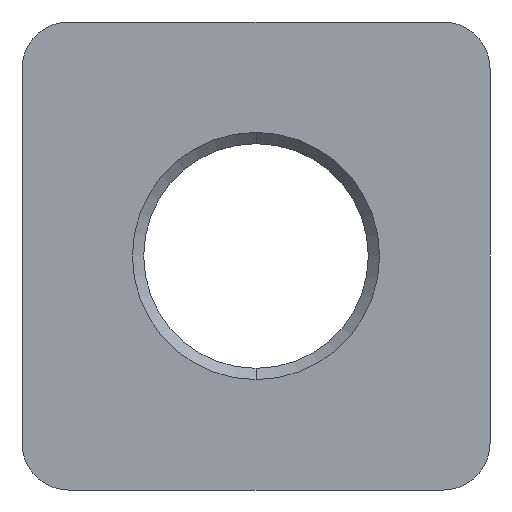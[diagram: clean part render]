
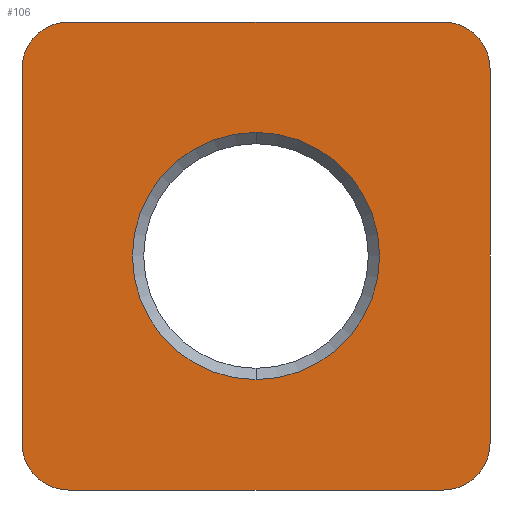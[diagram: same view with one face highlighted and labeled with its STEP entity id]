
A CAD part, front view. The second image highlights one B-rep face of the part: STEP entity #106.
In plain terms, the highlighted planar face has unit normal (0, -1, 0).
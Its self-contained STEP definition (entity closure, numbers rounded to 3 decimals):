
#3 = VERTEX_POINT ( 'NONE', #335 ) ;
#13 = EDGE_CURVE ( 'NONE', #123, #110, #318, .T. ) ;
#24 = EDGE_CURVE ( 'NONE', #3, #609, #358, .T. ) ;
#26 = EDGE_CURVE ( 'NONE', #82, #32, #351, .T. ) ;
#32 = VERTEX_POINT ( 'NONE', #396 ) ;
#40 = ORIENTED_EDGE ( 'NONE', *, *, #1140, .T. ) ;
#62 = EDGE_CURVE ( 'NONE', #110, #82, #412, .T. ) ;
#82 = VERTEX_POINT ( 'NONE', #495 ) ;
#85 = EDGE_LOOP ( 'NONE', ( #40, #309 ) ) ;
#93 = EDGE_CURVE ( 'NONE', #609, #96, #489, .T. ) ;
#96 = VERTEX_POINT ( 'NONE', #477 ) ;
#105 = EDGE_CURVE ( 'NONE', #32, #611, #524, .T. ) ;
#106 = ADVANCED_FACE ( 'NONE', ( #520, #519 ), #518, .F. ) ;
#110 = VERTEX_POINT ( 'NONE', #509 ) ;
#123 = VERTEX_POINT ( 'NONE', #558 ) ;
#126 = EDGE_CURVE ( 'NONE', #96, #123, #554, .T. ) ;
#207 = EDGE_CURVE ( 'NONE', #1141, #1139, #741, .T. ) ;
#213 = EDGE_LOOP ( 'NONE', ( #308, #265, #263, #264, #274, #280, #272, #278 ) ) ;
#263 = ORIENTED_EDGE ( 'NONE', *, *, #26, .F. ) ;
#264 = ORIENTED_EDGE ( 'NONE', *, *, #62, .F. ) ;
#265 = ORIENTED_EDGE ( 'NONE', *, *, #105, .F. ) ;
#272 = ORIENTED_EDGE ( 'NONE', *, *, #93, .F. ) ;
#274 = ORIENTED_EDGE ( 'NONE', *, *, #13, .F. ) ;
#278 = ORIENTED_EDGE ( 'NONE', *, *, #24, .F. ) ;
#280 = ORIENTED_EDGE ( 'NONE', *, *, #126, .F. ) ;
#308 = ORIENTED_EDGE ( 'NONE', *, *, #603, .F. ) ;
#309 = ORIENTED_EDGE ( 'NONE', *, *, #207, .T. ) ;
#314 = DIRECTION ( 'NONE',  ( 0., 0., 1. ) ) ;
#315 = DIRECTION ( 'NONE',  ( 0., 1., 0. ) ) ;
#316 = CARTESIAN_POINT ( 'NONE',  ( 20., 0., 20. ) ) ;
#317 = AXIS2_PLACEMENT_3D ( 'NONE', #316, #315, #314 ) ;
#318 = CIRCLE ( 'NONE', #317, 5. ) ;
#335 = CARTESIAN_POINT ( 'NONE',  ( -25., 0., -20. ) ) ;
#344 = DIRECTION ( 'NONE',  ( 0., 0., -1. ) ) ;
#345 = DIRECTION ( 'NONE',  ( 0., 1., 0. ) ) ;
#346 = CARTESIAN_POINT ( 'NONE',  ( 20., 0., -20. ) ) ;
#347 = AXIS2_PLACEMENT_3D ( 'NONE', #346, #345, #344 ) ;
#351 = CIRCLE ( 'NONE', #347, 5. ) ;
#355 = DIRECTION ( 'NONE',  ( 0., 0., 1. ) ) ;
#356 = VECTOR ( 'NONE', #355, 1000. ) ;
#357 = CARTESIAN_POINT ( 'NONE',  ( -25., 0., 20. ) ) ;
#358 = LINE ( 'NONE', #357, #356 ) ;
#396 = CARTESIAN_POINT ( 'NONE',  ( 20., 0., -25. ) ) ;
#406 = DIRECTION ( 'NONE',  ( 0., 0., -1. ) ) ;
#407 = VECTOR ( 'NONE', #406, 1000. ) ;
#408 = CARTESIAN_POINT ( 'NONE',  ( 25., 0., 20. ) ) ;
#412 = LINE ( 'NONE', #408, #407 ) ;
#477 = CARTESIAN_POINT ( 'NONE',  ( -20., 0., 25. ) ) ;
#485 = DIRECTION ( 'NONE',  ( 0., 0., -1. ) ) ;
#486 = DIRECTION ( 'NONE',  ( 0., 1., 0. ) ) ;
#487 = CARTESIAN_POINT ( 'NONE',  ( -20., 0., 20. ) ) ;
#488 = AXIS2_PLACEMENT_3D ( 'NONE', #487, #486, #485 ) ;
#489 = CIRCLE ( 'NONE', #488, 5. ) ;
#495 = CARTESIAN_POINT ( 'NONE',  ( 25., 0., -20. ) ) ;
#509 = CARTESIAN_POINT ( 'NONE',  ( 25., 0., 20. ) ) ;
#513 = DIRECTION ( 'NONE',  ( 0., 0., 1. ) ) ;
#514 = DIRECTION ( 'NONE',  ( 0., 1., 0. ) ) ;
#515 = CARTESIAN_POINT ( 'NONE',  ( -20., 0., -20. ) ) ;
#517 = AXIS2_PLACEMENT_3D ( 'NONE', #515, #514, #513 ) ;
#518 = PLANE ( 'NONE',  #517 ) ;
#519 = FACE_OUTER_BOUND ( 'NONE', #213, .T. ) ;
#520 = FACE_BOUND ( 'NONE', #85, .T. ) ;
#521 = DIRECTION ( 'NONE',  ( -1., 0., 0. ) ) ;
#522 = VECTOR ( 'NONE', #521, 1000. ) ;
#523 = CARTESIAN_POINT ( 'NONE',  ( -20., 0., -25. ) ) ;
#524 = LINE ( 'NONE', #523, #522 ) ;
#551 = DIRECTION ( 'NONE',  ( 1., 0., 0. ) ) ;
#552 = VECTOR ( 'NONE', #551, 1000. ) ;
#553 = CARTESIAN_POINT ( 'NONE',  ( -20., 0., 25. ) ) ;
#554 = LINE ( 'NONE', #553, #552 ) ;
#558 = CARTESIAN_POINT ( 'NONE',  ( 20., 0., 25. ) ) ;
#603 = EDGE_CURVE ( 'NONE', #611, #3, #876, .T. ) ;
#609 = VERTEX_POINT ( 'NONE', #924 ) ;
#611 = VERTEX_POINT ( 'NONE', #923 ) ;
#734 = DIRECTION ( 'NONE',  ( 0., 0., 1. ) ) ;
#735 = DIRECTION ( 'NONE',  ( 0., 1., 0. ) ) ;
#736 = CARTESIAN_POINT ( 'NONE',  ( 0., 0., 0. ) ) ;
#737 = AXIS2_PLACEMENT_3D ( 'NONE', #736, #735, #734 ) ;
#741 = CIRCLE ( 'NONE', #737, 13.2 ) ;
#872 = DIRECTION ( 'NONE',  ( 0., 0., 1. ) ) ;
#873 = DIRECTION ( 'NONE',  ( 0., 1., 0. ) ) ;
#874 = CARTESIAN_POINT ( 'NONE',  ( -20., 0., -20. ) ) ;
#875 = AXIS2_PLACEMENT_3D ( 'NONE', #874, #873, #872 ) ;
#876 = CIRCLE ( 'NONE', #875, 5. ) ;
#923 = CARTESIAN_POINT ( 'NONE',  ( -20., 0., -25. ) ) ;
#924 = CARTESIAN_POINT ( 'NONE',  ( -25., 0., 20. ) ) ;
#975 = CARTESIAN_POINT ( 'NONE',  ( 0., 0., 13.2 ) ) ;
#976 = DIRECTION ( 'NONE',  ( 0., 0., 1. ) ) ;
#977 = DIRECTION ( 'NONE',  ( 0., 1., 0. ) ) ;
#978 = CARTESIAN_POINT ( 'NONE',  ( 0., 0., 0. ) ) ;
#979 = AXIS2_PLACEMENT_3D ( 'NONE', #978, #977, #976 ) ;
#980 = CIRCLE ( 'NONE', #979, 13.2 ) ;
#981 = CARTESIAN_POINT ( 'NONE',  ( 0., 0., -13.2 ) ) ;
#1139 = VERTEX_POINT ( 'NONE', #981 ) ;
#1140 = EDGE_CURVE ( 'NONE', #1139, #1141, #980, .T. ) ;
#1141 = VERTEX_POINT ( 'NONE', #975 ) ;
